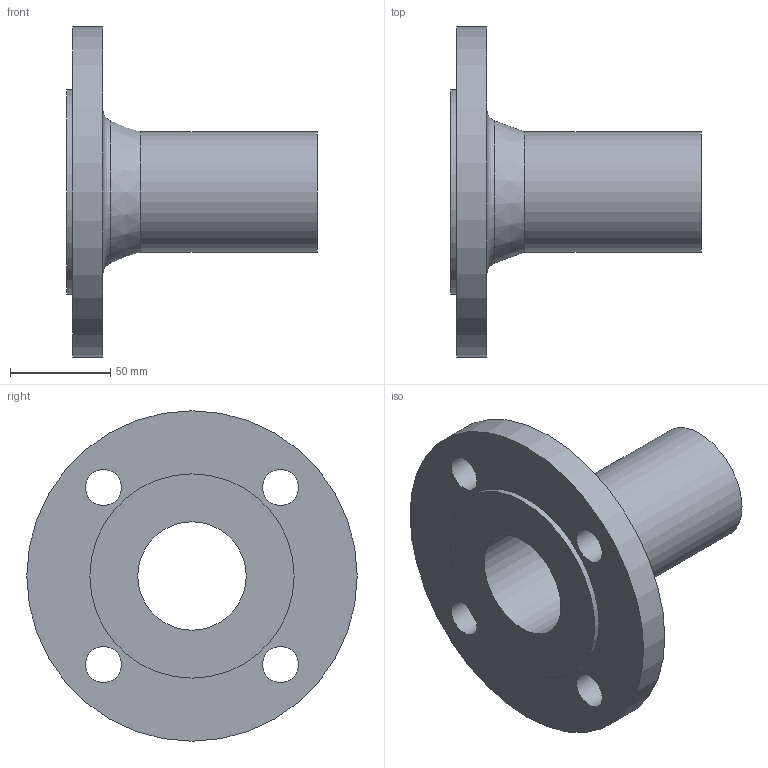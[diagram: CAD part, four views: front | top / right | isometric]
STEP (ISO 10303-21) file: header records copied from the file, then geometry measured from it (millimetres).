
FILE_DESCRIPTION(/* description */ (''),/* implementation_level */ '2;1');
FILE_NAME(/* name */ 'C:\Users\LK_9K\Desktop\STRAUB FLANSCHADAPTER DN50.stp',/* time_stamp */ '2021-04-12T08:17:45+02:00',/* author */ ('LK_9K'),/* organization */ (''),/* preprocessor_version */ 'ST-DEVELOPER v18.1',/* originating_system */ 'Autodesk Inventor 2020',/* authorisation */ '');
FILE_SCHEMA (('AUTOMOTIVE_DESIGN { 1 0 10303 214 3 1 1 }'));
Length unit declared in the file: millimetre
Products named in the file (1): Bauteil1
Bounding box: 125 x 165 x 165 mm (x, y, z)
Volume: 345913.9 mm3; surface area: 89118.9 mm2
Topology: 1 solids, 1 shells, 16 faces, 46 edges, 35 vertices
Faces by surface type: cylinder 9, plane 5, torus 1, cone 1
Full cylindrical faces by diameter (mm): 18 x4, 54.2 x1, 56 x1, 60 x1, 102 x1, 165 x1
Entity records: 631 total; most frequent: DIRECTION 116, CARTESIAN_POINT 98, ORIENTED_EDGE 92, AXIS2_PLACEMENT_3D 53, EDGE_CURVE 46, CIRCLE 36, VERTEX_POINT 35, EDGE_LOOP 29
